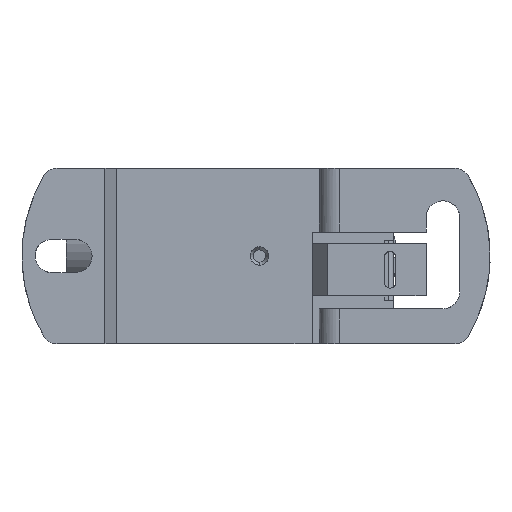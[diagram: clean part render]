
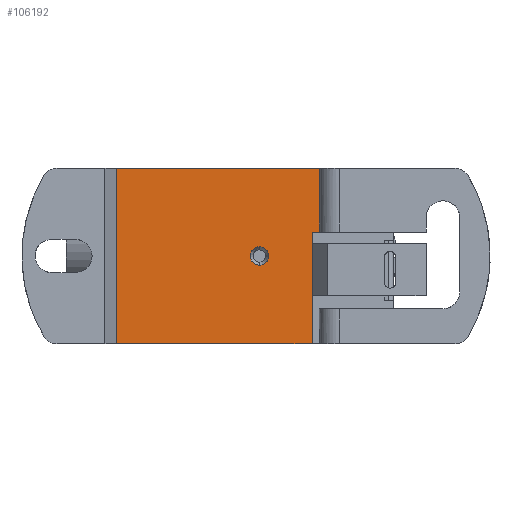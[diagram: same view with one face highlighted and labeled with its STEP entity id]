
A CAD part, front view. The second image highlights one B-rep face of the part: STEP entity #106192.
In plain terms, the highlighted planar face has unit normal (0, -1, 0).
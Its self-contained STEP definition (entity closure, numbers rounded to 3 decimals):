
#5405 = CARTESIAN_POINT ( 'NONE',  ( -135.129, -22.438, -109.95 ) ) ;
#5406 = DIRECTION ( 'NONE',  ( 0., 0., -1. ) ) ;
#5407 = VECTOR ( 'NONE', #5406, 1000. ) ;
#5408 = CARTESIAN_POINT ( 'NONE',  ( -135.129, -22.438, -124.25 ) ) ;
#5409 = LINE ( 'NONE', #5408, #5407 ) ;
#5412 = CARTESIAN_POINT ( 'NONE',  ( -135.129, -22.438, -138.55 ) ) ;
#5640 = CARTESIAN_POINT ( 'NONE',  ( -108.629, -22.438, -124.25 ) ) ;
#5641 = CARTESIAN_POINT ( 'NONE',  ( -108.629, -22.438, -124.051 ) ) ;
#5642 = CARTESIAN_POINT ( 'NONE',  ( -108.667, -22.438, -123.859 ) ) ;
#5643 = CARTESIAN_POINT ( 'NONE',  ( -108.819, -22.438, -123.493 ) ) ;
#5644 = CARTESIAN_POINT ( 'NONE',  ( -108.928, -22.438, -123.33 ) ) ;
#5645 = CARTESIAN_POINT ( 'NONE',  ( -109.208, -22.438, -123.049 ) ) ;
#5646 = CARTESIAN_POINT ( 'NONE',  ( -109.371, -22.438, -122.94 ) ) ;
#5647 = CARTESIAN_POINT ( 'NONE',  ( -109.738, -22.438, -122.788 ) ) ;
#5648 = CARTESIAN_POINT ( 'NONE',  ( -109.93, -22.438, -122.75 ) ) ;
#5649 = CARTESIAN_POINT ( 'NONE',  ( -110.129, -22.438, -122.75 ) ) ;
#5657 = B_SPLINE_CURVE_WITH_KNOTS ( 'NONE', 3,
 ( #5649, #5648, #5647, #5646, #5645, #5644, #5643, #5642, #5641, #5640 ),
 .UNSPECIFIED., .F., .F.,
 ( 4, 2, 2, 2, 4 ),
 ( 0., 0.25, 0.5, 0.75, 1. ),
 .UNSPECIFIED. ) ;
#5659 = CARTESIAN_POINT ( 'NONE',  ( -108.629, -22.438, -124.25 ) ) ;
#5660 = CARTESIAN_POINT ( 'NONE',  ( -108.629, -22.438, -124.446 ) ) ;
#5661 = CARTESIAN_POINT ( 'NONE',  ( -108.668, -22.438, -124.643 ) ) ;
#5662 = CARTESIAN_POINT ( 'NONE',  ( -108.818, -22.438, -125.005 ) ) ;
#5663 = CARTESIAN_POINT ( 'NONE',  ( -108.929, -22.438, -125.172 ) ) ;
#5664 = CARTESIAN_POINT ( 'NONE',  ( -109.207, -22.438, -125.45 ) ) ;
#5665 = CARTESIAN_POINT ( 'NONE',  ( -109.373, -22.438, -125.561 ) ) ;
#5666 = CARTESIAN_POINT ( 'NONE',  ( -109.736, -22.438, -125.711 ) ) ;
#5667 = CARTESIAN_POINT ( 'NONE',  ( -109.932, -22.438, -125.75 ) ) ;
#5668 = CARTESIAN_POINT ( 'NONE',  ( -110.129, -22.438, -125.75 ) ) ;
#5670 = CARTESIAN_POINT ( 'NONE',  ( -108.629, -22.438, -124.25 ) ) ;
#5671 = B_SPLINE_CURVE_WITH_KNOTS ( 'NONE', 3,
 ( #5668, #5667, #5666, #5665, #5664, #5663, #5662, #5661, #5660, #5659 ),
 .UNSPECIFIED., .F., .F.,
 ( 4, 2, 2, 2, 4 ),
 ( 0.667, 0.75, 0.833, 0.917, 1. ),
 .UNSPECIFIED. ) ;
#5800 = CARTESIAN_POINT ( 'NONE',  ( -117.729, -22.438, -120.35 ) ) ;
#5801 = LINE ( 'NONE', #5800, #5851 ) ;
#5847 = CARTESIAN_POINT ( 'NONE',  ( -100.329, -22.438, -120.35 ) ) ;
#5848 = CARTESIAN_POINT ( 'NONE',  ( -101.529, -22.438, -120.35 ) ) ;
#5850 = DIRECTION ( 'NONE',  ( 1., 0., 0. ) ) ;
#5851 = VECTOR ( 'NONE', #5850, 1000. ) ;
#7626 = CARTESIAN_POINT ( 'NONE',  ( -101.529, -22.438, -138.55 ) ) ;
#7627 = DIRECTION ( 'NONE',  ( 0., 0., 1. ) ) ;
#7628 = VECTOR ( 'NONE', #7627, 1000. ) ;
#7629 = CARTESIAN_POINT ( 'NONE',  ( -101.529, -22.438, -124.25 ) ) ;
#7630 = LINE ( 'NONE', #7629, #7628 ) ;
#8020 = DIRECTION ( 'NONE',  ( -1., 0., 0. ) ) ;
#8021 = VECTOR ( 'NONE', #8020, 1000. ) ;
#8022 = CARTESIAN_POINT ( 'NONE',  ( -110.679, -22.438, -138.55 ) ) ;
#8023 = LINE ( 'NONE', #8022, #8021 ) ;
#8048 = FACE_OUTER_BOUND ( 'NONE', #106197, .T. ) ;
#8049 = FACE_BOUND ( 'NONE', #106193, .T. ) ;
#8073 = CARTESIAN_POINT ( 'NONE',  ( -100.329, -22.438, -120.35 ) ) ;
#8074 = CARTESIAN_POINT ( 'NONE',  ( -100.329, -22.438, -109.95 ) ) ;
#8075 = CARTESIAN_POINT ( 'NONE',  ( -100.329, -22.438, -109.95 ) ) ;
#8076 = B_SPLINE_CURVE_WITH_KNOTS ( 'NONE', 1,
 ( #8074, #8073 ),
 .UNSPECIFIED., .F., .F.,
 ( 2, 2 ),
 ( 0., 1. ),
 .UNSPECIFIED. ) ;
#8077 = DIRECTION ( 'NONE',  ( 1., 0., 0. ) ) ;
#8078 = DIRECTION ( 'NONE',  ( 0., -1., 0. ) ) ;
#8079 = CARTESIAN_POINT ( 'NONE',  ( -135.129, -22.438, -138.55 ) ) ;
#8080 = AXIS2_PLACEMENT_3D ( 'NONE', #8079, #8078, #8077 ) ;
#8081 = PLANE ( 'NONE',  #8080 ) ;
#8243 = DIRECTION ( 'NONE',  ( 1., 0., 0. ) ) ;
#8244 = VECTOR ( 'NONE', #8243, 1000. ) ;
#8245 = CARTESIAN_POINT ( 'NONE',  ( -110.679, -22.438, -109.95 ) ) ;
#8251 = LINE ( 'NONE', #8245, #8244 ) ;
#27713 = CARTESIAN_POINT ( 'NONE',  ( -110.129, -22.438, -125.75 ) ) ;
#27714 = CARTESIAN_POINT ( 'NONE',  ( -110.325, -22.438, -125.75 ) ) ;
#27715 = CARTESIAN_POINT ( 'NONE',  ( -110.521, -22.438, -125.711 ) ) ;
#27716 = CARTESIAN_POINT ( 'NONE',  ( -110.884, -22.438, -125.561 ) ) ;
#27717 = CARTESIAN_POINT ( 'NONE',  ( -111.05, -22.438, -125.45 ) ) ;
#27718 = CARTESIAN_POINT ( 'NONE',  ( -111.328, -22.438, -125.172 ) ) ;
#27719 = CARTESIAN_POINT ( 'NONE',  ( -111.439, -22.438, -125.005 ) ) ;
#27720 = CARTESIAN_POINT ( 'NONE',  ( -111.59, -22.438, -124.643 ) ) ;
#27721 = CARTESIAN_POINT ( 'NONE',  ( -111.629, -22.438, -124.446 ) ) ;
#27722 = CARTESIAN_POINT ( 'NONE',  ( -111.629, -22.438, -124.054 ) ) ;
#27723 = CARTESIAN_POINT ( 'NONE',  ( -111.59, -22.438, -123.857 ) ) ;
#27724 = CARTESIAN_POINT ( 'NONE',  ( -111.439, -22.438, -123.495 ) ) ;
#27725 = CARTESIAN_POINT ( 'NONE',  ( -111.328, -22.438, -123.328 ) ) ;
#27726 = CARTESIAN_POINT ( 'NONE',  ( -111.05, -22.438, -123.05 ) ) ;
#27727 = CARTESIAN_POINT ( 'NONE',  ( -110.884, -22.438, -122.939 ) ) ;
#27728 = CARTESIAN_POINT ( 'NONE',  ( -110.521, -22.438, -122.789 ) ) ;
#27729 = CARTESIAN_POINT ( 'NONE',  ( -110.325, -22.438, -122.75 ) ) ;
#27740 = CARTESIAN_POINT ( 'NONE',  ( -110.129, -22.438, -122.75 ) ) ;
#27741 = CARTESIAN_POINT ( 'NONE',  ( -110.129, -22.438, -125.75 ) ) ;
#27742 = B_SPLINE_CURVE_WITH_KNOTS ( 'NONE', 3,
 ( #27740, #27729, #27728, #27727, #27726, #27725, #27724, #27723, #27722, #27721, #27720, #27719, #27718, #27717, #27716, #27715, #27714, #27713 ),
 .UNSPECIFIED., .F., .F.,
 ( 4, 2, 2, 2, 2, 2, 2, 2, 4 ),
 ( 0., 0.083, 0.167, 0.25, 0.333, 0.417, 0.5, 0.583, 0.667 ),
 .UNSPECIFIED. ) ;
#27828 = CARTESIAN_POINT ( 'NONE',  ( -110.129, -22.438, -122.75 ) ) ;
#105362 = VERTEX_POINT ( 'NONE', #5412 ) ;
#105364 = EDGE_CURVE ( 'NONE', #105365, #105362, #5409, .T. ) ;
#105365 = VERTEX_POINT ( 'NONE', #5405 ) ;
#105433 = EDGE_CURVE ( 'NONE', #111096, #105434, #5671, .T. ) ;
#105434 = VERTEX_POINT ( 'NONE', #5670 ) ;
#105436 = EDGE_CURVE ( 'NONE', #111122, #105434, #5657, .T. ) ;
#105490 = EDGE_CURVE ( 'NONE', #105491, #105492, #5801, .T. ) ;
#105491 = VERTEX_POINT ( 'NONE', #5848 ) ;
#105492 = VERTEX_POINT ( 'NONE', #5847 ) ;
#106064 = EDGE_CURVE ( 'NONE', #106065, #105491, #7630, .T. ) ;
#106065 = VERTEX_POINT ( 'NONE', #7626 ) ;
#106177 = ORIENTED_EDGE ( 'NONE', *, *, #105364, .T. ) ;
#106178 = ORIENTED_EDGE ( 'NONE', *, *, #106179, .F. ) ;
#106179 = EDGE_CURVE ( 'NONE', #106065, #105362, #8023, .T. ) ;
#106180 = ORIENTED_EDGE ( 'NONE', *, *, #106064, .T. ) ;
#106181 = ORIENTED_EDGE ( 'NONE', *, *, #105490, .T. ) ;
#106192 = ADVANCED_FACE ( 'NONE', ( #8049, #8048 ), #8081, .T. ) ;
#106193 = EDGE_LOOP ( 'NONE', ( #106194, #106195, #106196 ) ) ;
#106194 = ORIENTED_EDGE ( 'NONE', *, *, #111095, .F. ) ;
#106195 = ORIENTED_EDGE ( 'NONE', *, *, #105436, .T. ) ;
#106196 = ORIENTED_EDGE ( 'NONE', *, *, #105433, .F. ) ;
#106197 = EDGE_LOOP ( 'NONE', ( #106198, #106201, #106177, #106178, #106180, #106181 ) ) ;
#106198 = ORIENTED_EDGE ( 'NONE', *, *, #106199, .F. ) ;
#106199 = EDGE_CURVE ( 'NONE', #106200, #105492, #8076, .T. ) ;
#106200 = VERTEX_POINT ( 'NONE', #8075 ) ;
#106201 = ORIENTED_EDGE ( 'NONE', *, *, #106259, .F. ) ;
#106259 = EDGE_CURVE ( 'NONE', #105365, #106200, #8251, .T. ) ;
#111095 = EDGE_CURVE ( 'NONE', #111122, #111096, #27742, .T. ) ;
#111096 = VERTEX_POINT ( 'NONE', #27741 ) ;
#111122 = VERTEX_POINT ( 'NONE', #27828 ) ;
